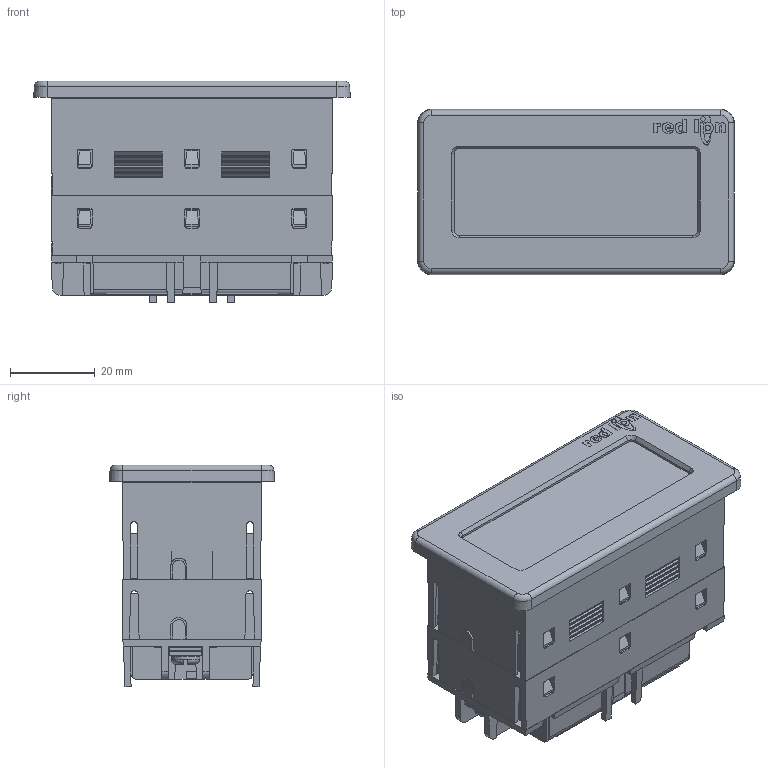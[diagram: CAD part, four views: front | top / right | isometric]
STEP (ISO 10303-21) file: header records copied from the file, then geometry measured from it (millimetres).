
FILE_DESCRIPTION (( 'STEP AP214' ), '1' );
FILE_NAME ('CUB4V-STEP.STEP', '2022-12-16T16:37:49', ( '' ), ( '' ), 'SwSTEP 2.0', 'SolidWorks 2022', '' );
FILE_SCHEMA (( 'AUTOMOTIVE_DESIGN' ));
Length unit declared in the file: inch
Products named in the file (14): CUB4V-STEP; WN112368; CV111456; BZ113716; SCOCD029; formed terminal; SB1A5621; HWMTER05-1; CA111460; BZ113743; #6-32 x .375 sems combination drive; CV111459; HWMTER05; HWMTER05-2
Assembly tree (17 placements, depth 4):
  CUB4V-STEP
    BZ113743
      BZ113716
      WN112368
    SB1A5621
      HWMTER05
        formed terminal
        #6-32 x .375 sems combination drive
      HWMTER05-1
        formed terminal
        #6-32 x .375 sems combination drive
      HWMTER05-2
        formed terminal
        #6-32 x .375 sems combination drive
      CV111456
    SCOCD029
    CA111460
    CV111459
Bounding box: 74.93 x 39.12 x 52.45 mm (x, y, z)
Volume: 39816.9 mm3; surface area: 58891.2 mm2
Topology: 45 solids, 54 shells, 1816 faces, 4670 edges, 3025 vertices
Faces by surface type: plane 1404, cylinder 324, torus 35, bspline 22, cone 17, sphere 14
Entity records: 55159 total; most frequent: CARTESIAN_POINT 10698, ORIENTED_EDGE 8564, DIRECTION 7779, EDGE_CURVE 4282, VECTOR 3607, LINE 3607, VERTEX_POINT 2779, AXIS2_PLACEMENT_3D 2086
